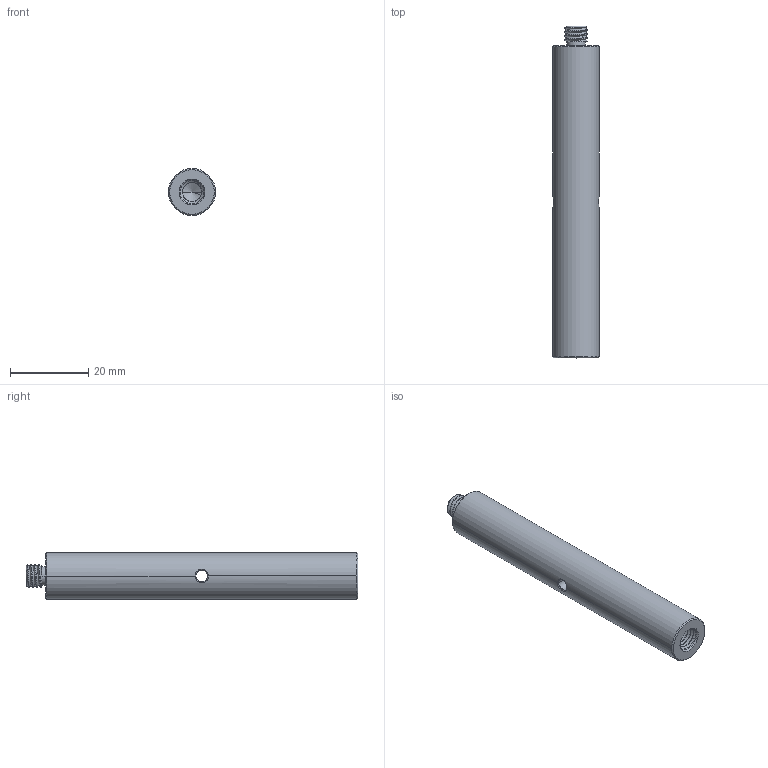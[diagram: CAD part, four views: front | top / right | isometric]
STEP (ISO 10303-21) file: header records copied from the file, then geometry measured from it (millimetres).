
FILE_DESCRIPTION((''),'2;1');
FILE_NAME('PCA8-A','2021-01-06T',('Administrator'),(''),'CREO PARAMETRIC BY PTC INC, 2015290','CREO PARAMETRIC BY PTC INC, 2015290','');
FILE_SCHEMA(('CONFIG_CONTROL_DESIGN'));
Length unit declared in the file: millimetre
Products named in the file (1): PCA8-A
Bounding box: 12 x 85 x 12 mm (x, y, z)
Volume: 8769.8 mm3; surface area: 3753 mm2
Topology: 1 solids, 1 shells, 69 faces, 178 edges, 109 vertices
Faces by surface type: cylinder 35, bspline 18, cone 9, plane 7
Entity records: 4845 total; most frequent: CARTESIAN_POINT 3354, ORIENTED_EDGE 352, DIRECTION 212, EDGE_CURVE 176, VERTEX_POINT 109, B_SPLINE_CURVE_WITH_KNOTS 87, AXIS2_PLACEMENT_3D 72, EDGE_LOOP 71
